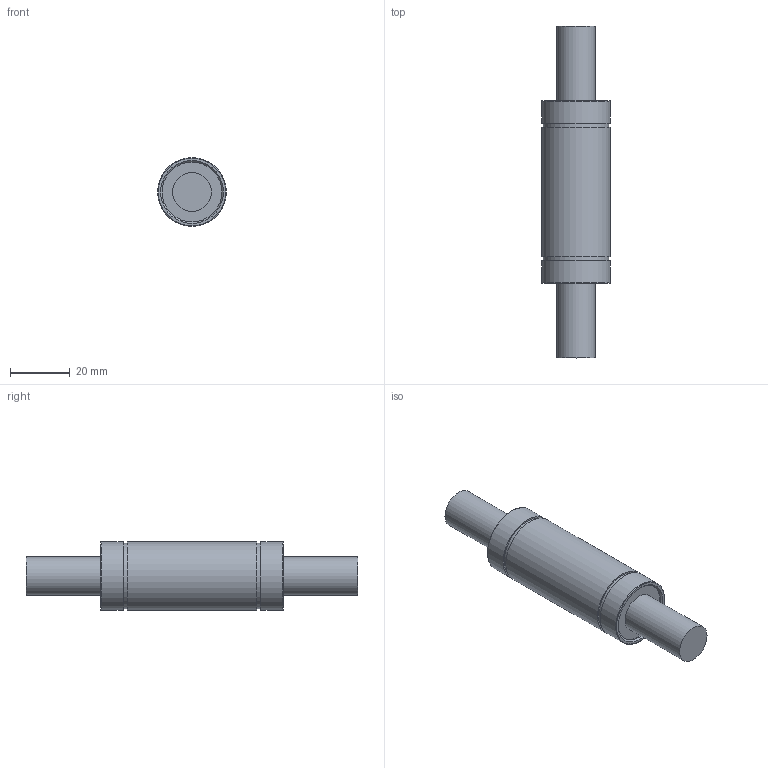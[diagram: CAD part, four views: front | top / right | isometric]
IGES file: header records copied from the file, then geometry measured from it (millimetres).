
Global section: file name: No Iges File Name specified; native system: Autodesk Inventor 2012; preprocessor: AutoDesk Inventor Iges Exporter R2012; author: user2; date: 20130206.102125; units: millimetre
Bounding box: 23 x 111 x 23 mm (x, y, z)
Volume: 31581.2 mm3; surface area: 7531.1 mm2
Topology: 1 solids, 1 shells, 23 faces, 37 edges, 24 vertices
Faces by surface type: plane 10, cylinder 7, revolution 4, torus 2
Full cylindrical faces by diameter (mm): 13 x2, 22 x2, 23 x3
